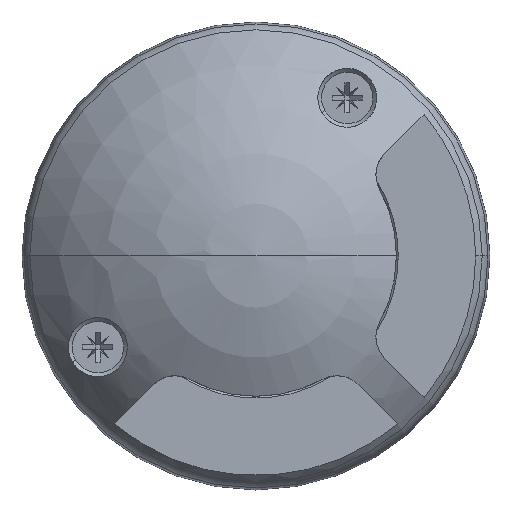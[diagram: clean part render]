
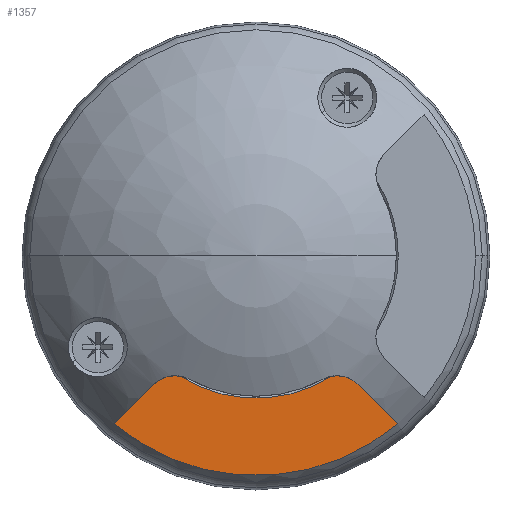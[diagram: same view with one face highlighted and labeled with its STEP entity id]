
A CAD part, top view. The second image highlights one B-rep face of the part: STEP entity #1357.
In plain terms, the highlighted planar face has unit normal (0, 0, 1).
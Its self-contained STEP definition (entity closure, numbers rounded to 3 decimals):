
#392=CARTESIAN_POINT('',(0.,0.,4.));
#393=DIRECTION('',(0.,0.,-1.));
#394=DIRECTION('',(0.533,-0.846,0.));
#395=AXIS2_PLACEMENT_3D('',#392,#393,#394);
#397=CARTESIAN_POINT('',(8.656,-16.01,4.));
#398=DIRECTION('',(0.,0.,1.));
#399=DIRECTION('',(0.707,0.707,0.));
#400=AXIS2_PLACEMENT_3D('',#397,#398,#399);
#402=DIRECTION('',(-0.707,0.707,0.));
#403=VECTOR('',#402,5.943);
#404=CARTESIAN_POINT('',(15.121,-17.95,4.));
#405=LINE('',#404,#403);
#406=CARTESIAN_POINT('',(0.,0.,4.));
#407=DIRECTION('',(0.,0.,1.));
#408=DIRECTION('',(-0.644,-0.765,0.));
#409=AXIS2_PLACEMENT_3D('',#406,#407,#408);
#411=DIRECTION('',(-0.707,-0.707,0.));
#412=VECTOR('',#411,5.943);
#413=CARTESIAN_POINT('',(-10.919,-13.747,4.));
#414=LINE('',#413,#412);
#415=CARTESIAN_POINT('',(-8.656,-16.01,4.));
#416=DIRECTION('',(0.,0.,1.));
#417=DIRECTION('',(0.171,0.985,0.));
#418=AXIS2_PLACEMENT_3D('',#415,#416,#417);
#818=CARTESIAN_POINT('',(10.919,-13.747,4.));
#819=CARTESIAN_POINT('',(8.108,-12.857,4.));
#820=VERTEX_POINT('',#818);
#821=VERTEX_POINT('',#819);
#824=CARTESIAN_POINT('',(15.121,-17.95,4.));
#825=VERTEX_POINT('',#824);
#826=CARTESIAN_POINT('',(-8.108,-12.857,4.));
#827=CARTESIAN_POINT('',(-10.919,-13.747,4.));
#828=VERTEX_POINT('',#826);
#829=VERTEX_POINT('',#827);
#830=CARTESIAN_POINT('',(-15.121,-17.95,4.));
#831=VERTEX_POINT('',#830);
#1341=CARTESIAN_POINT('',(0.,0.,4.));
#1342=DIRECTION('',(0.,0.,1.));
#1343=DIRECTION('',(-1.,0.,0.));
#1344=AXIS2_PLACEMENT_3D('',#1341,#1342,#1343);
#1345=PLANE('',#1344);
#1347=ORIENTED_EDGE('',*,*,#1346,.F.);
#1348=ORIENTED_EDGE('',*,*,#1320,.F.);
#1349=ORIENTED_EDGE('',*,*,#1336,.F.);
#1350=ORIENTED_EDGE('',*,*,#1210,.F.);
#1352=ORIENTED_EDGE('',*,*,#1351,.F.);
#1354=ORIENTED_EDGE('',*,*,#1353,.F.);
#1355=EDGE_LOOP('',(#1347,#1348,#1349,#1350,#1352,#1354));
#1356=FACE_OUTER_BOUND('',#1355,.F.);
#1357=ADVANCED_FACE('',(#1356),#1345,.T.);
#396=CIRCLE('',#395,15.2);
#401=CIRCLE('',#400,3.2);
#410=CIRCLE('',#409,23.47);
#419=CIRCLE('',#418,3.2);
#1210=EDGE_CURVE('',#831,#825,#410,.T.);
#1320=EDGE_CURVE('',#820,#821,#401,.T.);
#1336=EDGE_CURVE('',#825,#820,#405,.T.);
#1346=EDGE_CURVE('',#821,#828,#396,.T.);
#1351=EDGE_CURVE('',#829,#831,#414,.T.);
#1353=EDGE_CURVE('',#828,#829,#419,.T.);
